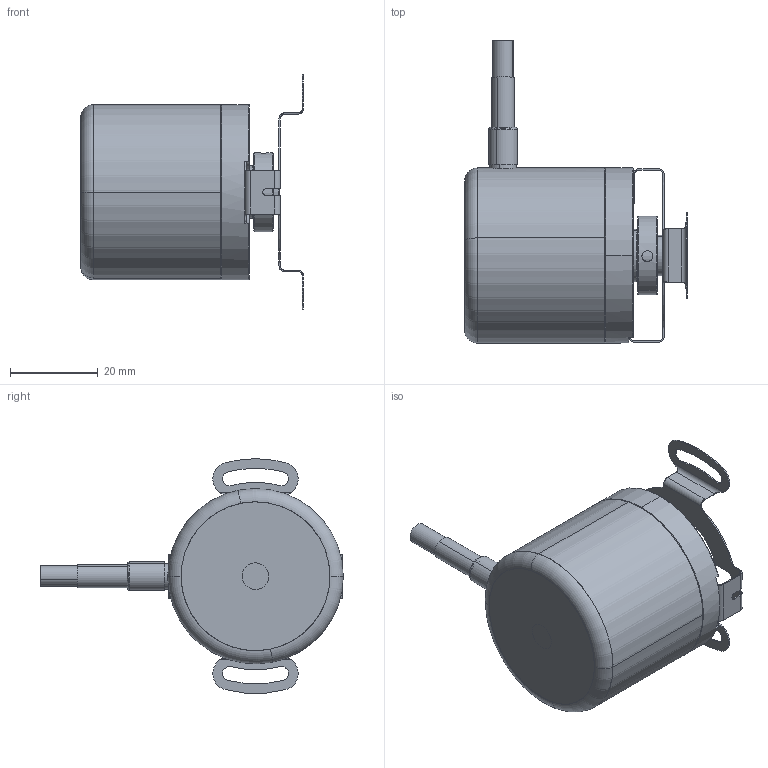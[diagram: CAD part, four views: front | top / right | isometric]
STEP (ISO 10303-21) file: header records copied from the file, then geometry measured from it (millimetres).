
FILE_DESCRIPTION (( 'STEP AP214' ), '1' );
FILE_NAME ('8_KIH40_5XXX_metal.step', '2015-06-22T09:41:16', ( '' ), ( '' ), 'SwSTEP 2.0', 'SolidWorks 2013', '' );
FILE_SCHEMA (( 'AUTOMOTIVE_DESIGN' ));
Length unit declared in the file: millimetre
Products named in the file (18): N655070u027_Inkrementalcodescheibe~3_Standard; adhesive_tape_metaldisk; KIN608900_0_disktable; KIN607350_0_hollowshaft; KIN608201_0_bearingZZ_19x10x5; KIN608200_0_bearingRSZ_19x10x5; KIN608600_2_flange_HS; Sleeve; 8_KIH40_5XXX_metal; KIN503000_0_cover_axial; KIN511000_0_Oring; G202032_20140601; KIN141000_0_Cable_8core; KIN620000_0_hollowrivet; T030805_Feder_gebogen_f黵_3720~6_Standard; KIN503001_0_cover_radial; KIN600000_0_clampring; Adhesive_tape_metal_mask
Assembly tree (17 placements, depth 2):
  8_KIH40_5XXX_metal
    KIN608600_2_flange_HS
    KIN608200_0_bearingRSZ_19x10x5
    KIN608201_0_bearingZZ_19x10x5
    KIN607350_0_hollowshaft
    KIN608900_0_disktable
    adhesive_tape_metaldisk
    N655070u027_Inkrementalcodescheibe~3_Standard
    Adhesive_tape_metal_mask
    KIN600000_0_clampring
    KIN503001_0_cover_radial
    T030805_Feder_gebogen_f黵_3720~6_Standard
    KIN620000_0_hollowrivet
    KIN141000_0_Cable_8core
    G202032_20140601
    KIN511000_0_Oring
    KIN503000_0_cover_axial
    Sleeve
Bounding box: 50.9 x 69 x 53.5 mm (x, y, z)
Volume: 31773 mm3; surface area: 41096.6 mm2
Topology: 149 solids, 151 shells, 2167 faces, 5425 edges, 3514 vertices
Faces by surface type: plane 1305, cylinder 581, torus 96, cone 64, bspline 64, sphere 57
Entity records: 82942 total; most frequent: CARTESIAN_POINT 15771, DIRECTION 10733, ORIENTED_EDGE 10606, EDGE_CURVE 5303, AXIS2_PLACEMENT_3D 3594, LINE 3545, VECTOR 3545, VERTEX_POINT 3454
